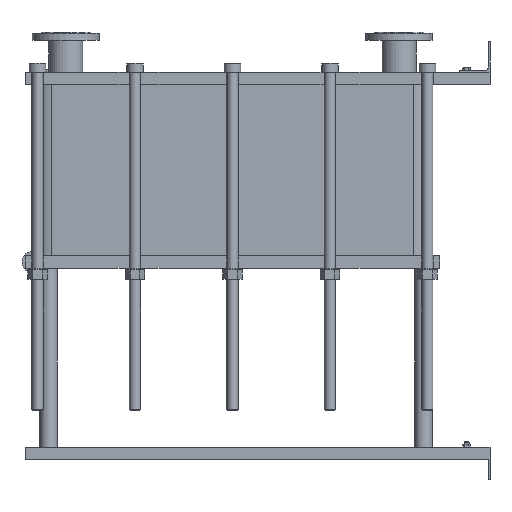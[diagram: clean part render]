
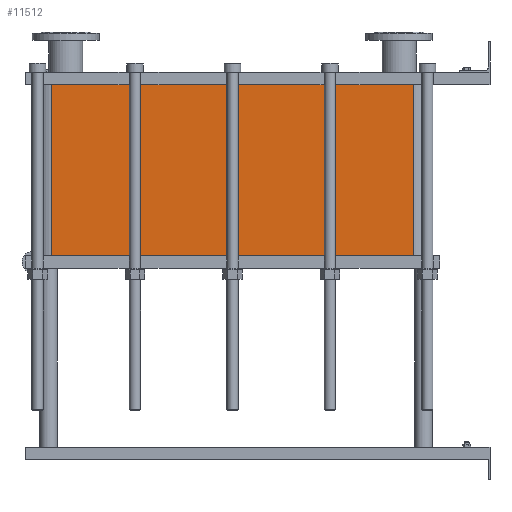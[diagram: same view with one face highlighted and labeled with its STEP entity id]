
A CAD part, left-side view. The second image highlights one B-rep face of the part: STEP entity #11512.
In plain terms, the highlighted planar face has unit normal (-1, 0, 0).
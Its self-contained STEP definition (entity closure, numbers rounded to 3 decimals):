
#1129=LINE('',#23232,#2102);
#1130=LINE('',#23236,#2103);
#1131=LINE('',#23238,#2104);
#1132=LINE('',#23239,#2105);
#2102=VECTOR('',#15887,10.);
#2103=VECTOR('',#15892,10.);
#2104=VECTOR('',#15893,10.);
#2105=VECTOR('',#15894,10.);
#3267=FACE_OUTER_BOUND('',#4093,.T.);
#4093=EDGE_LOOP('',(#10103,#10104,#10105,#10106));
#5642=VERTEX_POINT('',#23229);
#5643=VERTEX_POINT('',#23231);
#5644=VERTEX_POINT('',#23235);
#5645=VERTEX_POINT('',#23237);
#7159=EDGE_CURVE('',#5643,#5642,#1129,.T.);
#7161=EDGE_CURVE('',#5642,#5644,#1130,.T.);
#7162=EDGE_CURVE('',#5645,#5644,#1131,.T.);
#7163=EDGE_CURVE('',#5645,#5643,#1132,.T.);
#10103=ORIENTED_EDGE('',*,*,#7161,.T.);
#10104=ORIENTED_EDGE('',*,*,#7162,.F.);
#10105=ORIENTED_EDGE('',*,*,#7163,.T.);
#10106=ORIENTED_EDGE('',*,*,#7159,.T.);
#10857=PLANE('',#12751);
#11512=ADVANCED_FACE('',(#3267),#10857,.T.);
#12751=AXIS2_PLACEMENT_3D('',#23234,#15890,#15891);
#15887=DIRECTION('',(0.,0.,-1.));
#15890=DIRECTION('center_axis',(-1.,0.,0.));
#15891=DIRECTION('ref_axis',(0.,1.,0.));
#15892=DIRECTION('',(0.,-1.,0.));
#15893=DIRECTION('',(0.,0.,-1.));
#15894=DIRECTION('',(0.,1.,0.));
#23229=CARTESIAN_POINT('',(-200.,1414.,-552.));
#23231=CARTESIAN_POINT('',(-200.,1414.,0.));
#23232=CARTESIAN_POINT('',(-200.,1414.,0.));
#23234=CARTESIAN_POINT('Origin',(-200.,248.,0.));
#23235=CARTESIAN_POINT('',(-200.,248.,-552.));
#23236=CARTESIAN_POINT('',(-200.,539.5,-552.));
#23237=CARTESIAN_POINT('',(-200.,248.,0.));
#23238=CARTESIAN_POINT('',(-200.,248.,0.));
#23239=CARTESIAN_POINT('',(-200.,248.,0.));
